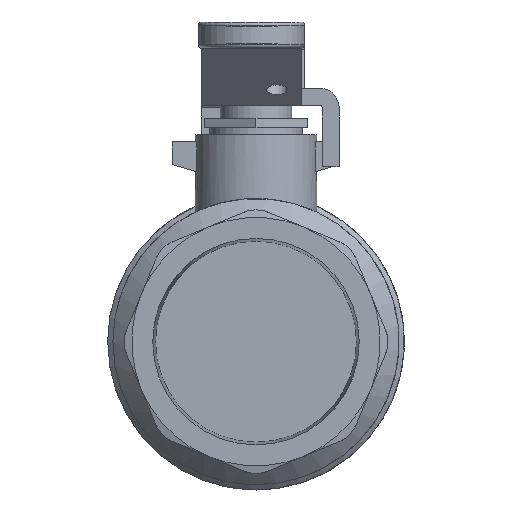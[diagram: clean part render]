
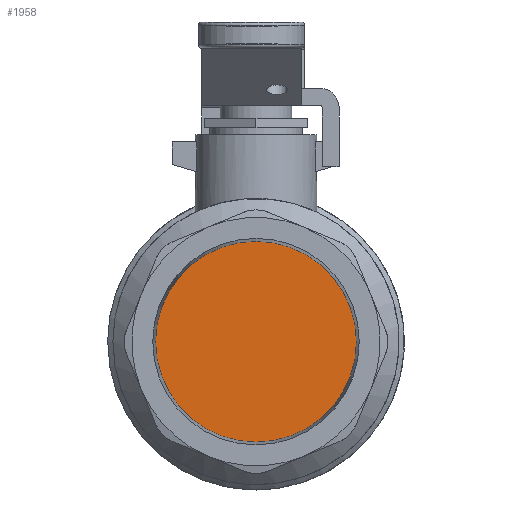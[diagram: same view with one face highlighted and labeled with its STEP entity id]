
A CAD part, left-side view. The second image highlights one B-rep face of the part: STEP entity #1958.
In plain terms, the highlighted free-form (B-spline) face has degree [1, 1] with [2, 2] control points.
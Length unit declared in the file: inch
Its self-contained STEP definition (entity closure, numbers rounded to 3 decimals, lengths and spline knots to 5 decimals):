
#1942=CARTESIAN_POINT('',(0.6809,0.77042,0.77042));
#1943=CARTESIAN_POINT('',(0.6809,-0.77042,0.77042));
#1944=CARTESIAN_POINT('',(0.6809,0.77042,-0.77042));
#1945=CARTESIAN_POINT('',(0.6809,-0.77042,-0.77042));
#1946=B_SPLINE_SURFACE_WITH_KNOTS('',1,1,((#1942,#1944),(#1943,#1945)),.UNSPECIFIED.,.F.,.F.,.U.,(2,2),(2,2),(0.0,1.54083),(0.0,1.54083),.UNSPECIFIED.);
#1947=CARTESIAN_POINT('',(0.6809,0.77042,0.0));
#1948=VERTEX_POINT('',#1947);
#1949=CARTESIAN_POINT('',(0.6809,0.0,0.0));
#1950=DIRECTION('',(1.0,0.0,0.0));
#1951=DIRECTION('',(0.0,1.0,0.0));
#1952=AXIS2_PLACEMENT_3D('',#1949,#1950,#1951);
#1953=CIRCLE('',#1952,0.77042);
#1954=EDGE_CURVE('',#1948,#1948,#1953,.T.);
#1955=ORIENTED_EDGE('',*,*,#1954,.F.);
#1956=EDGE_LOOP('',(#1955));
#1957=FACE_OUTER_BOUND('',#1956,.T.);
#1958=ADVANCED_FACE('',(#1957),#1946,.F.);
